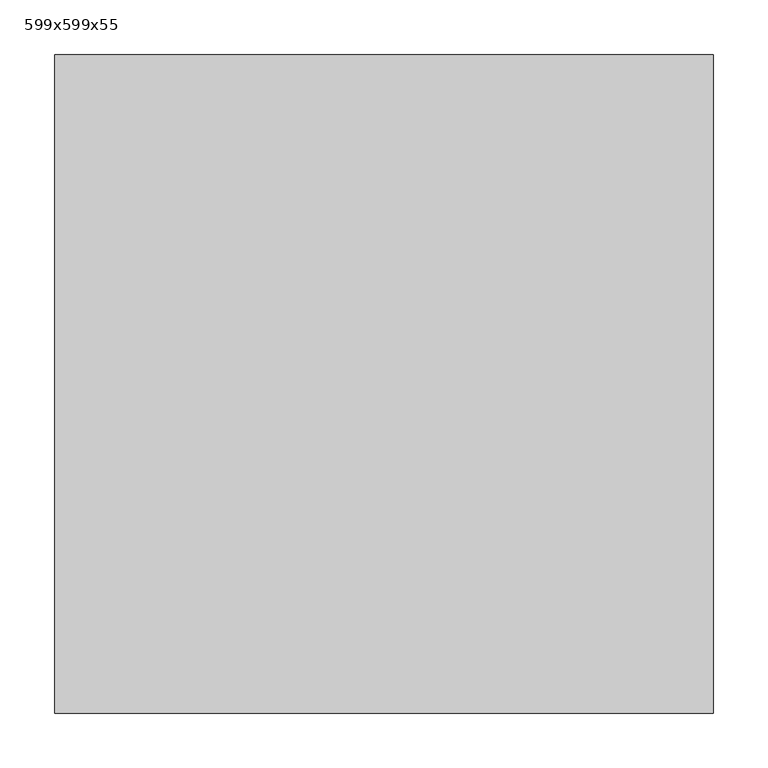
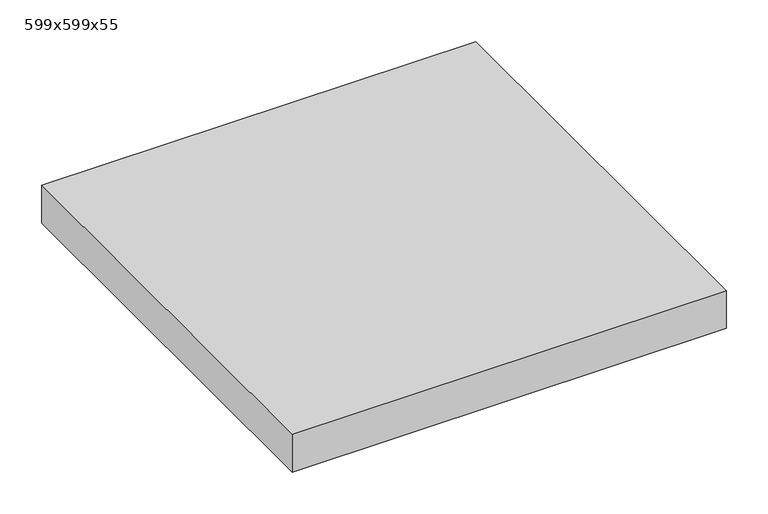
"""IFC4 building model written with IfcOpenShell, lengths in millimetres: proxy geometry, Texaa Panneaux Stereo fixés contre support par système magnétique séparés ou groupés au plafond : 599x599x55."""

import ifcopenshell
import ifcopenshell.guid

model = None  # the IFC model being written
_history = None  # IfcOwnerHistory: only IFC2X3 demands one
_inside = {}  # id of a spatial element -> (the spatial element, [elements in it])
_under = {}  # id of a project, library or spatial element -> (it, [spatial elements below it])
_declared = {}  # id of a project -> (the project, [libraries it declares])
_typed = {}  # id of a type object -> (the type object, [elements of that type])
_made_of = {}  # id of a material, layer set ... -> (it, [elements and type objects made of it])


def new_model(schema):
    """Start an empty IFC model of exactly this schema.

    Asked for "IFC4X3", IfcOpenShell would pick the latest addendum, in which some entities
    have other attributes; the version numbers below select the first issue.
    IFC2X3 requires an IfcOwnerHistory on every rooted entity: one is made here for all.
    """
    global model, _history
    if schema == "IFC4X3":
        model = ifcopenshell.file(schema_version=(4, 3, 0, 0))
    else:
        model = ifcopenshell.file(schema=schema)
    _inside.clear()
    _under.clear()
    _declared.clear()
    _typed.clear()
    _made_of.clear()
    _history = None
    if model.schema == "IFC2X3":
        org = make("IfcOrganization", Name="unknown")
        user = make(
            "IfcPersonAndOrganization",
            ThePerson=make("IfcPerson", FamilyName="unknown"),
            TheOrganization=org,
        )
        app = make(
            "IfcApplication",
            ApplicationDeveloper=org,
            Version="unknown",
            ApplicationFullName="unknown",
            ApplicationIdentifier="unknown",
        )
        _history = make(
            "IfcOwnerHistory",
            OwningUser=user,
            OwningApplication=app,
            ChangeAction="ADDED",
            CreationDate=0,
        )
    return model


def make(cls, **values):
    """One entity of the class cls with the attributes given. An attribute that is None is left unset."""
    return model.create_entity(
        cls, **{name: value for name, value in values.items() if value is not None}
    )


def rooted(cls, **values):
    """An entity with a GlobalId (a new one), such as an element, a storey or a relation."""
    return make(cls, GlobalId=ifcopenshell.guid.new(), OwnerHistory=_history, **values)


def si_unit(unit_type, name, prefix=None):
    """IfcSIUnit, for example si_unit("LENGTHUNIT", "METRE", prefix="MILLI")."""
    return make("IfcSIUnit", UnitType=unit_type, Prefix=prefix, Name=name)


def assignment(units):
    """IfcUnitAssignment: the units of a project."""
    return None if units is None else make("IfcUnitAssignment", Units=units)


def point(xyz):
    """IfcCartesianPoint."""
    return None if xyz is None else make("IfcCartesianPoint", Coordinates=xyz)


def direction(xyz):
    """IfcDirection."""
    return None if xyz is None else make("IfcDirection", DirectionRatios=xyz)


def frame(location, z_axis=None, x_axis=None):
    """IfcAxis2Placement3D, a coordinate frame: its origin and axes. An axis left out is left unset."""
    return make(
        "IfcAxis2Placement3D",
        Location=point(location),
        Axis=direction(z_axis),
        RefDirection=direction(x_axis),
    )


def origin():
    """The frame at (0, 0, 0) with its axes left unset."""
    return frame((0.0, 0.0, 0.0))


def place(relative_to, where):
    """IfcLocalPlacement: puts the frame where relative to a parent placement (None: the world)."""
    return make(
        "IfcLocalPlacement", PlacementRelTo=relative_to, RelativePlacement=where
    )


def context(
    kind, dimensions, precision=None, world=None, true_north=None, identifier=None
):
    """IfcGeometricRepresentationContext, for example the 3D "Model" context."""
    return make(
        "IfcGeometricRepresentationContext",
        ContextIdentifier=identifier,
        ContextType=kind,
        CoordinateSpaceDimension=dimensions,
        Precision=precision,
        WorldCoordinateSystem=world,
        TrueNorth=true_north,
    )


def project(units=None, contexts=None):
    """IfcProject with its units and contexts."""
    return rooted(
        "IfcProject",
        Name="project",
        RepresentationContexts=contexts,
        UnitsInContext=assignment(units),
    )


def spatial(cls, under=None, at=None, **own):
    """A site, building, storey or space (cls), placed at a placement, below another one or the project."""
    s = rooted(cls, ObjectPlacement=at, **own)
    if under is not None:
        _under.setdefault(under.id(), (under, []))[1].append(s)
    return s


def polyline(points):
    """IfcPolyline through the points."""
    return make("IfcPolyline", Points=[point(p) for p in points])


def outline(outer, holes=None, kind="AREA"):
    """IfcArbitraryClosedProfileDef: a profile drawn as a closed curve; with holes, ...WithVoids."""
    if holes is None:
        return make("IfcArbitraryClosedProfileDef", ProfileType=kind, OuterCurve=outer)
    return make(
        "IfcArbitraryProfileDefWithVoids",
        ProfileType=kind,
        OuterCurve=outer,
        InnerCurves=holes,
    )


def extrude(swept, where, along, depth):
    """IfcExtrudedAreaSolid: the profile swept, set in the frame where, extruded along a direction by depth."""
    return make(
        "IfcExtrudedAreaSolid",
        SweptArea=swept,
        Position=where,
        ExtrudedDirection=direction(along),
        Depth=depth,
    )


def faces_of(points, faces, orient=None, outer=None):
    """IfcFace entities. A face is a list of loops; a loop is a list of indices into points, from 0.

    orient and outer hold one flag for each loop. By default every Orientation is true, the
    first loop of a face is its IfcFaceOuterBound and the others are IfcFaceBound.
    """
    made = []
    for i, loops in enumerate(faces):
        bounds = []
        for j, loop in enumerate(loops):
            is_outer = j == 0 if outer is None else outer[i][j]
            bounds.append(
                make(
                    "IfcFaceOuterBound" if is_outer else "IfcFaceBound",
                    Bound=make("IfcPolyLoop", Polygon=[points[k] for k in loop]),
                    Orientation=True if orient is None else orient[i][j],
                )
            )
        made.append(make("IfcFace", Bounds=bounds))
    return made


def faceted_brep(points, faces, orient=None, outer=None, voids=None):
    """IfcFacetedBrep: a solid bounded by flat faces; with voids (closed shells), ...WithVoids."""
    shared = [point(p) for p in points]
    hull = make("IfcClosedShell", CfsFaces=faces_of(shared, faces, orient, outer))
    if voids is None:
        return make("IfcFacetedBrep", Outer=hull)
    return make(
        "IfcFacetedBrepWithVoids",
        Outer=hull,
        Voids=[
            make(cls, CfsFaces=faces_of(shared, fs, o, b)) for cls, fs, o, b in voids
        ],
    )


def shape(context_of_items, identifier, shape_type, items):
    """IfcShapeRepresentation: the items that make up one representation, for example the "Body"."""
    return make(
        "IfcShapeRepresentation",
        ContextOfItems=context_of_items,
        RepresentationIdentifier=identifier,
        RepresentationType=shape_type,
        Items=items,
    )


def source(mapping_origin, context_of_items, identifier, shape_type, items):
    """IfcRepresentationMap: a shape defined once, which mapped items show again and again."""
    return make(
        "IfcRepresentationMap",
        MappingOrigin=mapping_origin,
        MappedRepresentation=shape(context_of_items, identifier, shape_type, items),
    )


def transform(
    local_origin,
    x_axis=None,
    y_axis=None,
    z_axis=None,
    scale=None,
    scale2=None,
    scale3=None,
    uniform=True,
):
    """IfcCartesianTransformationOperator3D, or its non-uniform kind. x_axis, y_axis, z_axis: its Axis1, 2, 3."""
    if uniform:
        return make(
            "IfcCartesianTransformationOperator3D",
            Axis1=direction(x_axis),
            Axis2=direction(y_axis),
            LocalOrigin=point(local_origin),
            Scale=scale,
            Axis3=direction(z_axis),
        )
    return make(
        "IfcCartesianTransformationOperator3DnonUniform",
        Axis1=direction(x_axis),
        Axis2=direction(y_axis),
        LocalOrigin=point(local_origin),
        Scale=scale,
        Axis3=direction(z_axis),
        Scale2=scale2,
        Scale3=scale3,
    )


def mapped(mapping_source, mapping_target):
    """IfcMappedItem: shows the shape of a source again, moved by a transform."""
    return make(
        "IfcMappedItem", MappingSource=mapping_source, MappingTarget=mapping_target
    )


def made_of(thing, what):
    """Note that an element or type object is made of a material, layer set ...; save() writes the relation."""
    if what is not None:
        _made_of.setdefault(what.id(), (what, []))[1].append(thing)
    return thing


def element(
    cls,
    number,
    at=None,
    inside=None,
    cuts=None,
    type_object=None,
    material=None,
    context=None,
    identifier="Body",
    shape_type=None,
    held_by="IfcProductDefinitionShape",
    body=None,
    shapes=None,
    **own,
):
    """One element of the class cls, such as IfcWall. Its Tag is "e" and its number.

    at: its placement. inside: the storey or other place that contains it. cuts: it is an
    opening in that element (IfcRelVoidsElement). A single representation is given by context,
    identifier, shape_type and body (its items); several are given by shapes. held_by: the class
    of the entity that holds the representations. save() writes the other relations.
    """
    e = rooted(cls, Tag="e%d" % number, ObjectPlacement=at, **own)
    if body is not None:
        shapes = [shape(context, identifier, shape_type, body)]
    if shapes is not None:
        e.Representation = make(held_by, Representations=shapes)
    if inside is not None:
        _inside.setdefault(inside.id(), (inside, []))[1].append(e)
    if cuts is not None:
        rooted(
            "IfcRelVoidsElement", RelatingBuildingElement=cuts, RelatedOpeningElement=e
        )
    if type_object is not None:
        _typed.setdefault(type_object.id(), (type_object, []))[1].append(e)
    return made_of(e, material)


def aggregate(whole, parts):
    """IfcRelAggregates: a whole, such as a stair, and the parts it consists of."""
    return rooted("IfcRelAggregates", RelatingObject=whole, RelatedObjects=parts)


def save(model, path):
    """Write the relations noted so far, then the file.

    IfcRelAggregates (storeys below a building ...), IfcRelContainedInSpatialStructure (elements
    in a storey), IfcRelDefinesByType, IfcRelAssociatesMaterial and IfcRelDeclares: one each for
    every whole, place, type object, material and project.
    """
    for whole, parts in _under.values():
        aggregate(whole, parts)
    for where, things in _inside.values():
        rooted(
            "IfcRelContainedInSpatialStructure",
            RelatedElements=things,
            RelatingStructure=where,
        )
    for kind, things in _typed.values():
        rooted("IfcRelDefinesByType", RelatedObjects=things, RelatingType=kind)
    for what, things in _made_of.values():
        rooted("IfcRelAssociatesMaterial", RelatedObjects=things, RelatingMaterial=what)
    for by, libraries in _declared.values():
        rooted("IfcRelDeclares", RelatingContext=by, RelatedDefinitions=libraries)
    model.write(path)


def proxy_599x599x55_0c90e03f(model_context):
    return source(origin(), model_context, "Body", "SolidModel", [
        extrude(outline(polyline([(-298.5, -298.5), (-298.5, 298.5), (298.5, 298.5), (298.5, -298.5), (-298.5, -298.5)])), frame((0.0, 0.0, 11.0), z_axis=(0.0, 0.0, 1.0), x_axis=(1.0, 0.0, 0.0)), (0.0, 0.0, 1.0), 53.0),
        faceted_brep([(299.5, 299.5, 65.0), (-299.5, 299.5, 65.0), (-299.5, -299.5, 65.0), (299.5, -299.5, 65.0), (-299.5, -299.5, 10.0), (-299.5, 299.5, 10.0), (299.5, 299.5, 10.0), (299.5, -299.5, 10.0), (-249.5, 249.5, 10.0), (-249.5, -249.5, 10.0), (249.5, -249.5, 10.0), (249.5, 249.5, 10.0), (249.5, 249.5, 11.0), (-249.5, 249.5, 11.0), (249.5, -249.5, 11.0), (-249.5, -249.5, 11.0), (-298.5, -298.5, 64.0), (-298.5, 298.5, 64.0), (298.5, 298.5, 64.0), (298.5, -298.5, 64.0), (-298.5, -298.5, 11.0), (298.5, -298.5, 11.0), (298.5, 298.5, 11.0), (-298.5, 298.5, 11.0)], [[[0, 1, 2, 3]], [[4, 5, 6, 7], [8, 9, 10, 11]], [[4, 2, 1, 5]], [[5, 1, 0, 6]], [[3, 7, 6, 0]], [[2, 4, 7, 3]], [[8, 11, 12, 13]], [[11, 10, 14, 12]], [[10, 9, 15, 14]], [[13, 15, 9, 8]], [[16, 17, 18, 19]], [[20, 21, 22, 23], [12, 14, 15, 13]], [[23, 17, 16, 20]], [[22, 18, 17, 23]], [[18, 22, 21, 19]], [[19, 21, 20, 16]]]),
    ])


if __name__ == "__main__":
    model = new_model("IFC4")
    model_context = context("Model", 3, world=origin())
    ifc_project = project(units=[si_unit("LENGTHUNIT", "METRE", prefix="MILLI")], contexts=[model_context])
    site = spatial("IfcSite", under=ifc_project)
    building = spatial("IfcBuilding", under=site)
    placement = place(None, origin())
    proxy_599x599x55_shape = proxy_599x599x55_0c90e03f(model_context)
    element("IfcBuildingElementProxy", 1, Name="Texaa Panneaux Stereo fixés contre support par système magnétique séparés ou groupés au plafond : 599x599x55", ObjectType="Texaa Panneaux Stereo fixés contre support par système magnétique séparés ou groupés au plafond : 599x599x55", at=placement, inside=building, context=model_context, shape_type="MappedRepresentation", body=[
        mapped(proxy_599x599x55_shape, transform((0.0, 0.0, 0.0), x_axis=(1.0, 0.0, 0.0), y_axis=(0.0, 1.0, 0.0), z_axis=(0.0, 0.0, 1.0))),
    ])
    save(model, "model.ifc")
